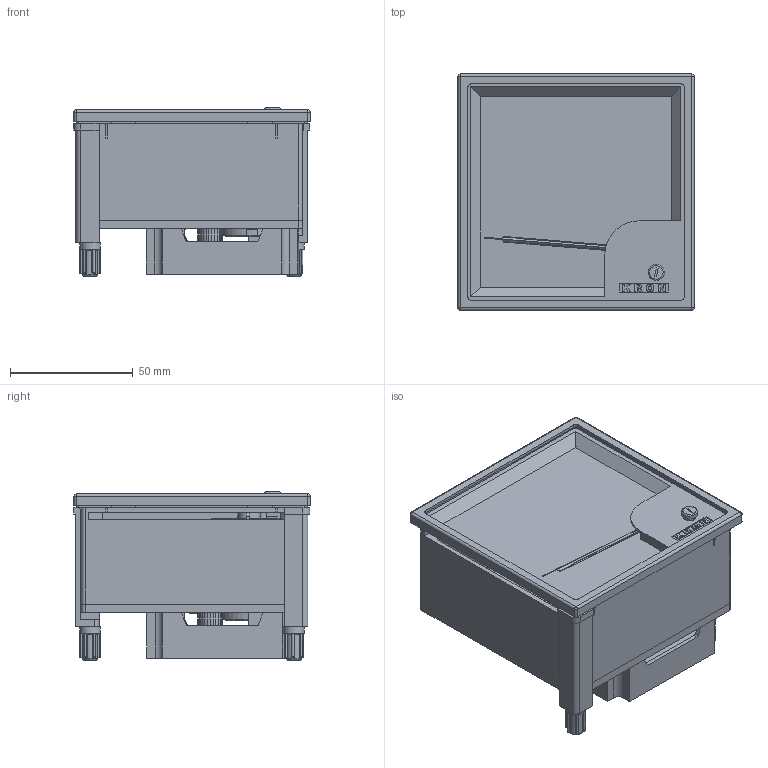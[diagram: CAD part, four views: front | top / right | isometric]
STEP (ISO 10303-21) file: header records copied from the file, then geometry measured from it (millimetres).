
FILE_DESCRIPTION(/* description */ (''),/* implementation_level */ '2;1');
FILE_NAME(/* name */ 'T:\EngMecanica\DESENHOS INVENTOR\Catalogo 2019\Arquivos STEP\BM96 PC.stp',/* time_stamp */ '2024-10-28T10:40:30-03:00',/* author */ ('jose.luis'),/* organization */ (''),/* preprocessor_version */ 'ST-DEVELOPER v18.1',/* originating_system */ 'Autodesk Inventor 2021',/* authorisation */ '');
FILE_SCHEMA (('AUTOMOTIVE_DESIGN { 1 0 10303 214 3 1 1 }'));
Length unit declared in the file: millimetre
Products named in the file (19): BM96 PC; Caixa; Moldura externa; Base BM 96 importado; Moldura interna BM96; Escala BM96PC; Bobina; Bobina parte superior; Ajuste do ponteiro; Tampa traseira; Pino ajuste externo; Suporte do ponteiro; Ponteiro BM96 PC; Trava para painel; Rosca da trava; Protetor de borne BM96; Borne de ligação; arruela quadrada; AS 1427 - M3 x 6
Assembly tree (23 placements, depth 2):
  BM96 PC
    Caixa
    Moldura externa
    Base BM 96 importado
    Moldura interna BM96
    Escala BM96PC
    Bobina
    Bobina parte superior
    Ajuste do ponteiro
    Tampa traseira
    Pino ajuste externo
    Suporte do ponteiro
    Ponteiro BM96 PC
    Trava para painel  x2
    Rosca da trava  x2
    Protetor de borne BM96
    Borne de ligação  x2
    arruela quadrada  x2
    AS 1427 - M3 x 6  x2
Bounding box: 96.25 x 96.28 x 68.5 mm (x, y, z)
Volume: 102228.7 mm3; surface area: 119193.1 mm2
Topology: 23 solids, 23 shells, 1031 faces, 2709 edges, 1779 vertices
Faces by surface type: plane 673, cylinder 254, bspline 60, cone 27, torus 13, sphere 4
Full cylindrical faces by diameter (mm): 1 x1, 1.941 x4, 2 x6, 2.013 x2, 2.387 x2, 2.5 x1, 3 x6, 3.2 x6, 3.5 x3, 3.8 x2, 4.5 x4, 5 x1, 6 x3, 6.1 x2, 6.5 x1, 7.5 x1, 8 x1, 8.5 x2, 9.7 x1, 14.4 x1, 16.4 x1, 16.8 x1, 18.8 x1, 20.6 x1, 21.2 x1, 22.6 x1, 27.989 x1, 31.5 x1
Entity records: 29825 total; most frequent: CARTESIAN_POINT 6302, ORIENTED_EDGE 4838, DIRECTION 4530, EDGE_CURVE 2419, LINE 1734, VECTOR 1734, VERTEX_POINT 1594, AXIS2_PLACEMENT_3D 1398
